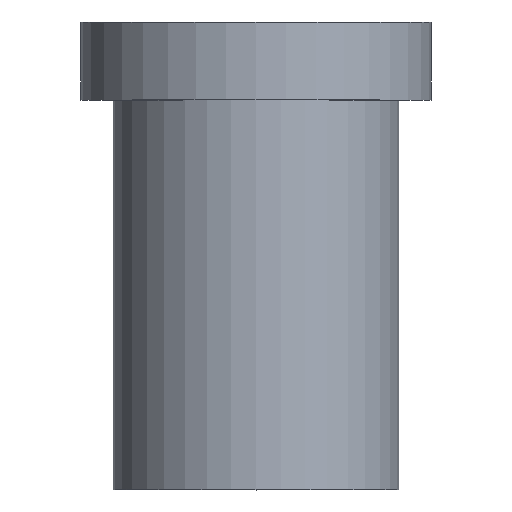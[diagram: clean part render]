
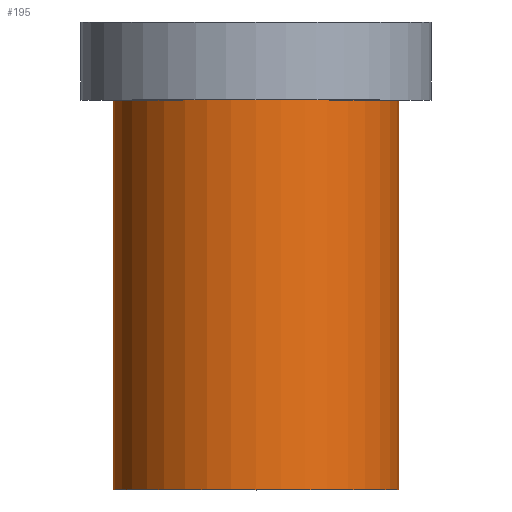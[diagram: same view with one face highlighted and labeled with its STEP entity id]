
A CAD part, top view. The second image highlights one B-rep face of the part: STEP entity #195.
In plain terms, the highlighted cylindrical face has radius 11 mm (diameter 22 mm), a full revolution.
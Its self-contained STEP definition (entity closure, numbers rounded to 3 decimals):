
#32=ORIENTED_EDGE('',*,*,#50,.T.);
#33=ORIENTED_EDGE('',*,*,#49,.F.);
#49=EDGE_CURVE('',#59,#59,#69,.T.);
#50=EDGE_CURVE('',#60,#60,#70,.T.);
#59=VERTEX_POINT('',#280);
#60=VERTEX_POINT('',#283);
#69=CIRCLE('',#213,11.);
#70=CIRCLE('',#215,11.);
#82=EDGE_LOOP('',(#32));
#83=EDGE_LOOP('',(#33));
#102=FACE_BOUND('',#82,.T.);
#103=FACE_BOUND('',#83,.T.);
#117=CYLINDRICAL_SURFACE('',#214,11.);
#195=ADVANCED_FACE('',(#102,#103),#117,.T.);
#213=AXIS2_PLACEMENT_3D('',#279,#241,#242);
#214=AXIS2_PLACEMENT_3D('',#281,#243,#244);
#215=AXIS2_PLACEMENT_3D('',#282,#245,#246);
#241=DIRECTION('',(0.,-1.,0.));
#242=DIRECTION('',(0.,0.,-1.));
#243=DIRECTION('',(0.,-1.,0.));
#244=DIRECTION('',(0.,0.,-1.));
#245=DIRECTION('',(0.,-1.,0.));
#246=DIRECTION('',(0.,0.,-1.));
#279=CARTESIAN_POINT('',(0.,0.,0.));
#280=CARTESIAN_POINT('',(0.,0.,-11.));
#281=CARTESIAN_POINT('',(0.,0.,0.));
#282=CARTESIAN_POINT('',(0.,30.,0.));
#283=CARTESIAN_POINT('',(0.,30.,-11.));
